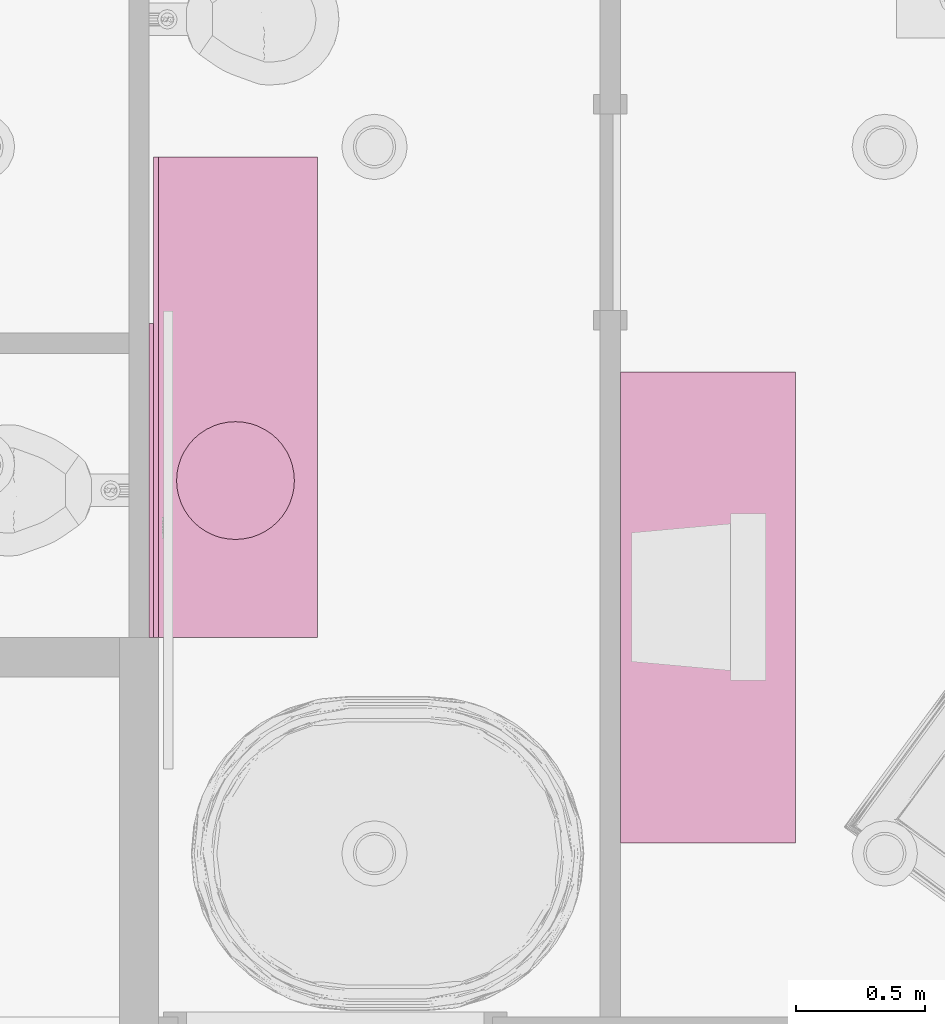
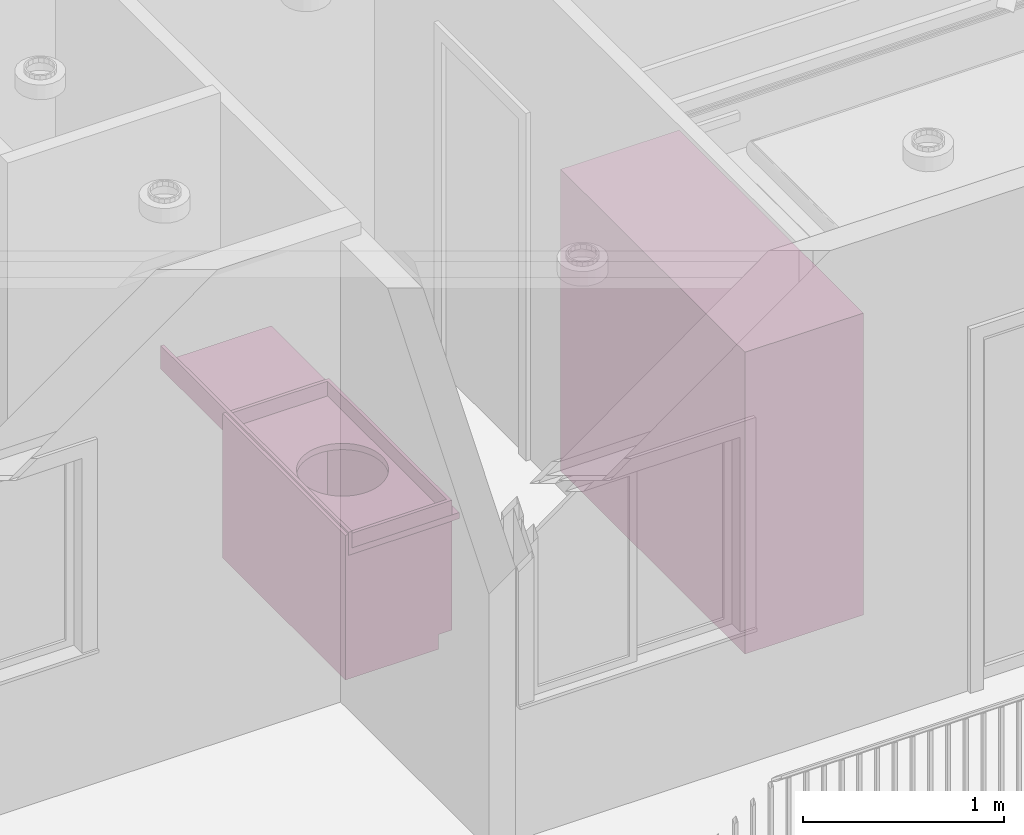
# One storey, part 22 of 28: 3 furnishings, 1 opening.
"""IFC2X3 building model written with IfcOpenShell, lengths in feet."""

from ifc_helpers import new_model, entity, si_unit, converted_unit, derived_unit, direction, frame, frame_2d, origin, place, context, subcontext, project, spatial, polyline, circle, outline, extrude, faceted_brep, source, transform, mapped, material, material_list, type_object, type_shapes, element, save


model = new_model("IFC2X3")

# Units and contexts
model_context = context("Model", 3, precision=0.0001, world=origin(), true_north=direction((6.12303176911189e-17, 1.0)))
body_context = subcontext(model_context, "Body", "Model", "MODEL_VIEW")
ifc_project = project(units=[converted_unit("LENGTHUNIT", "FOOT", entity("IfcRatioMeasure", 0.3048), si_unit("LENGTHUNIT", "METRE"), dimensions=[1, 0, 0, 0, 0, 0, 0]), converted_unit("AREAUNIT", "SQUARE FOOT", entity("IfcRatioMeasure", 0.09290304), si_unit("AREAUNIT", "SQUARE_METRE"), dimensions=[2, 0, 0, 0, 0, 0, 0]), converted_unit("VOLUMEUNIT", "CUBIC FOOT", entity("IfcRatioMeasure", 0.028316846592), si_unit("VOLUMEUNIT", "CUBIC_METRE"), dimensions=[3, 0, 0, 0, 0, 0, 0]), converted_unit("PLANEANGLEUNIT", "DEGREE", entity("IfcRatioMeasure", 0.0174532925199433), si_unit("PLANEANGLEUNIT", "RADIAN"), dimensions=[0, 0, 0, 0, 0, 0, 0]), si_unit("MASSUNIT", "GRAM", prefix="KILO"), derived_unit("MASSDENSITYUNIT", [(si_unit("MASSUNIT", "GRAM", prefix="KILO"), 1), (si_unit("LENGTHUNIT", "METRE"), -3)]), si_unit("TIMEUNIT", "SECOND"), si_unit("FREQUENCYUNIT", "HERTZ"), si_unit("THERMODYNAMICTEMPERATUREUNIT", "DEGREE_CELSIUS"), derived_unit("THERMALTRANSMITTANCEUNIT", [(si_unit("MASSUNIT", "GRAM", prefix="KILO"), 1), (si_unit("THERMODYNAMICTEMPERATUREUNIT", "KELVIN"), -1), (si_unit("TIMEUNIT", "SECOND"), -3)]), derived_unit("VOLUMETRICFLOWRATEUNIT", [(si_unit("LENGTHUNIT", "METRE"), 3), (si_unit("TIMEUNIT", "SECOND"), -1)]), si_unit("ELECTRICCURRENTUNIT", "AMPERE"), si_unit("ELECTRICVOLTAGEUNIT", "VOLT"), si_unit("POWERUNIT", "WATT"), si_unit("FORCEUNIT", "NEWTON"), si_unit("ILLUMINANCEUNIT", "LUX"), si_unit("LUMINOUSFLUXUNIT", "LUMEN"), si_unit("LUMINOUSINTENSITYUNIT", "CANDELA"), derived_unit("USERDEFINED", [(si_unit("MASSUNIT", "GRAM", prefix="KILO"), -1), (si_unit("LENGTHUNIT", "METRE"), -2), (si_unit("TIMEUNIT", "SECOND"), 3), (si_unit("LUMINOUSFLUXUNIT", "LUMEN"), 1)]), derived_unit("LINEARVELOCITYUNIT", [(si_unit("LENGTHUNIT", "METRE"), 1), (si_unit("TIMEUNIT", "SECOND"), -1)]), si_unit("PRESSUREUNIT", "PASCAL"), derived_unit("USERDEFINED", [(si_unit("LENGTHUNIT", "METRE"), -2), (si_unit("MASSUNIT", "GRAM", prefix="KILO"), 1), (si_unit("TIMEUNIT", "SECOND"), -2)])], contexts=[model_context])

# Site, building, storey
site_placement = place(None, origin())
site = spatial("IfcSite", under=ifc_project, at=site_placement, Name="表面", CompositionType="ELEMENT")
building_placement = place(site_placement, origin())
building = spatial("IfcBuilding", under=site, at=building_placement, CompositionType="ELEMENT")
storey_placement = place(building_placement, frame((0.0, 0.0, 10.0)))
storey = spatial("IfcBuildingStorey", under=building, at=storey_placement, Name="Level 2", CompositionType="ELEMENT", Elevation=9.99999999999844)

# Furnishing
ifc_material_1 = material(Name="Cabinets")
ifc_material_2 = material(Name="Cabinets - Handles")
ifc_material_list_1 = material_list([ifc_material_1, ifc_material_2])
ifc_material_list_2 = material_list([ifc_material_1, ifc_material_2])
furniture_type_1 = type_object("IfcFurnitureType", Name="48\"", material=ifc_material_list_2)
shared_shape_1 = source(origin(), body_context, "Body", "Brep", [
    faceted_brep([(1.99897540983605, -1.9375, 2.87500000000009), (1.99897540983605, -1.9375, 0.291666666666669), (-1.87602459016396, -1.9375, 0.291666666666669), (-1.87602459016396, -1.9375, 2.87500000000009), (-1.93852459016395, -2.0, 2.87500000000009), (2.06147540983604, -2.0, 2.87500000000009), (-1.93852459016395, -2.0, 0.291666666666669), (2.06147540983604, -2.0, 0.291666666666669), (-1.87602459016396, -1.75, 0.291666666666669), (-1.87602459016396, -0.062499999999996, 0.291666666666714), (-1.87602459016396, -0.062499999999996, 2.87500000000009), (-1.93852459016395, 0.0, 2.87500000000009), (-1.93852459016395, 0.0, 0.0), (-1.93852459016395, -1.75, 0.0), (-1.93852459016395, -1.75, 0.291666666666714), (1.99897540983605, -0.0624999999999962, 0.291666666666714), (1.99897540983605, -0.0624999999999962, 2.87500000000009), (2.06147540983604, 0.0, 2.87500000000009), (2.06147540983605, 0.0, 0.0), (1.99897540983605, -1.75, 0.291666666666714), (2.06147540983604, -1.75, 0.291666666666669), (2.06147540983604, -1.75, 0.0)], [[[0, 1, 2, 3]], [[0, 3, 4, 5]], [[5, 4, 6, 7]], [[2, 1, 7, 6]], [[3, 2, 8, 9, 10]], [[4, 3, 10, 11]], [[6, 4, 11, 12, 13, 14]], [[2, 6, 14, 8]], [[10, 9, 15, 16]], [[11, 10, 16, 17]], [[12, 11, 17, 18]], [[1, 0, 16, 15, 19]], [[0, 5, 17, 16]], [[5, 7, 20, 21, 18, 17]], [[7, 1, 19, 20]], [[8, 19, 15, 9]], [[18, 21, 13, 12]], [[13, 21, 20, 19, 8, 14]]]),
    faceted_brep([(0.217725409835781, -2.08333333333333, 2.29166666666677), (0.176058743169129, -2.08333333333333, 2.29166666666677), (0.176058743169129, -2.08333333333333, 1.88244716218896), (0.217725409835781, -2.08333333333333, 1.88244716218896), (0.217725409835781, -2.04166666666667, 2.29166666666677), (0.176058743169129, -2.04166666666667, 2.29166666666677), (0.176058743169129, -2.04166666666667, 1.88244716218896), (0.217725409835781, -2.04166666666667, 1.88244716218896)], [[[0, 1, 2, 3]], [[1, 0, 4, 5]], [[2, 1, 5, 6]], [[3, 2, 6, 7]], [[0, 3, 7, 4]], [[4, 7, 6, 5]]]),
    faceted_brep([(-0.053107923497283, -2.04166666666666, 2.29166666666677), (-0.053107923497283, -2.04166666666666, 1.88244716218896), (-0.0947745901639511, -2.04166666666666, 1.88244716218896), (-0.0947745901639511, -2.04166666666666, 2.29166666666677), (-0.0947745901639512, -2.08333333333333, 2.29166666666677), (-0.0531079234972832, -2.08333333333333, 2.29166666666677), (-0.0947745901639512, -2.08333333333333, 1.88244716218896), (-0.0531079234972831, -2.08333333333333, 1.88244716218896)], [[[0, 1, 2, 3]], [[4, 5, 0, 3]], [[6, 4, 3, 2]], [[7, 6, 2, 1]], [[5, 7, 1, 0]], [[5, 4, 6, 7]]]),
    faceted_brep([(1.99897540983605, -0.0624999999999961, 0.354166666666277), (-1.87602459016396, -0.062499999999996, 0.354166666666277), (-1.87602459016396, -1.9375, 0.354166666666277), (1.99897540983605, -1.9375, 0.354166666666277), (1.99897540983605, -0.062499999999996, 0.291666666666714), (1.99897540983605, -1.9375, 0.291666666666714), (-1.87602459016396, -1.9375, 0.291666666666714), (-1.87602459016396, -0.062499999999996, 0.291666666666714)], [[[0, 1, 2, 3]], [[4, 5, 6, 7]], [[1, 0, 4, 7]], [[2, 1, 7, 6]], [[3, 2, 6, 5]], [[0, 3, 5, 4]]]),
    faceted_brep([(1.99897540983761, -2.04166666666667, 2.81250000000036), (-1.87602459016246, -2.04166666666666, 2.81250000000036), (-1.87602459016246, -2.04166666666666, 2.47916666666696), (1.99897540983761, -2.04166666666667, 2.47916666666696), (1.99897540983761, -2.0, 2.81250000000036), (-1.87602459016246, -2.0, 2.81250000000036), (-1.87602459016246, -2.0, 2.47916666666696), (1.99897540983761, -2.0, 2.47916666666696)], [[[0, 1, 2, 3]], [[1, 0, 4, 5]], [[2, 1, 5, 6]], [[3, 2, 6, 7]], [[0, 3, 7, 4]], [[4, 7, 6, 5]]]),
    faceted_brep([(0.0302254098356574, -2.0, 2.41666666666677), (0.0302254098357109, -2.0, 0.354166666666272), (-1.87602459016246, -2.0, 0.354166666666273), (-1.87602459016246, -2.0, 2.41666666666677), (-1.87602459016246, -2.04166666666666, 2.41666666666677), (0.0302254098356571, -2.04166666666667, 2.41666666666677), (-1.87602459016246, -2.04166666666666, 0.354166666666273), (0.0302254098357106, -2.04166666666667, 0.354166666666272)], [[[0, 1, 2, 3]], [[4, 5, 0, 3]], [[6, 4, 3, 2]], [[7, 6, 2, 1]], [[5, 7, 1, 0]], [[5, 4, 6, 7]]]),
    faceted_brep([(0.092725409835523, -2.04166666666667, 2.41666666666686), (1.99897540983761, -2.04166666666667, 2.41666666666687), (1.99897540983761, -2.0, 2.41666666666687), (0.0927254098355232, -2.0, 2.41666666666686), (0.0927254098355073, -2.04166666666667, 0.354166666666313), (0.0927254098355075, -2.0, 0.354166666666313), (1.99897540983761, -2.04166666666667, 0.354166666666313), (1.99897540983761, -2.0, 0.354166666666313)], [[[0, 1, 2, 3]], [[4, 0, 3, 5]], [[6, 4, 5, 7]], [[1, 6, 7, 2]], [[2, 7, 5, 3]], [[1, 0, 4, 6]]]),
])
type_shapes(furniture_type_1, [shared_shape_1])
furnishing_1_placement = place(storey_placement, frame((-19.7380380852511, -6.12908171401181, 0.34374999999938), z_axis=(0.0, 0.0, 1.0), x_axis=(0.0, 1.0, 0.0)))
element("IfcFurnishingElement", 1, at=furnishing_1_placement, inside=storey, type_object=furniture_type_1, material=ifc_material_list_1, Name="Base Cabinet-Double Door Sink Unit:48\"", ObjectType="48\"", context=body_context, shape_type="MappedRepresentation", body=[
    mapped(shared_shape_1, transform((0.0, 0.0, 0.0), scale=1.0)),
])

# Furnishing, opening
ifc_material_3 = material(Name="Counter Top")
furniture_type_2 = type_object("IfcFurnitureType", Name="24\" Depth", material=ifc_material_3)
shared_shape_2 = source(origin(), body_context, "Body", "SweptSolid", [
    extrude(outline(polyline([(-0.194444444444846, -0.715277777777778), (0.26388888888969, -0.715277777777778), (0.26388888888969, -0.652777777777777), (-0.0694444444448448, -0.652777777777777), (-0.0694444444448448, 1.36805555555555), (-0.194444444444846, 1.36805555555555), (-0.194444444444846, -0.715277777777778)])), frame((-4.35519125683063, -0.715277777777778, 2.65277777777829), z_axis=(1.0, 0.0, 0.0), x_axis=(0.0, 0.0, 1.0)), (0.0, 0.0, 1.0), 6.11979166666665),
])
type_shapes(furniture_type_2, [shared_shape_2])
furnishing_2_placement = place(storey_placement, frame((-19.6807464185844, -3.71241504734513, 0.343749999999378), z_axis=(0.0, 0.0, 1.0), x_axis=(0.0, 1.0, 0.0)))
furnishing_2 = element("IfcFurnishingElement", 2, at=furnishing_2_placement, inside=storey, type_object=furniture_type_2, material=ifc_material_3, Name="Vanity Counter Top w Round Sink Hole:24\" Depth", ObjectType="24\" Depth", context=body_context, shape_type="MappedRepresentation", body=[
    mapped(shared_shape_2, transform((0.0, 0.0, 0.0), scale=1.0)),
])
opening_placement = place(storey_placement, frame((-19.6807464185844, -3.71241504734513, 10.3437499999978), z_axis=(0.0, 0.0, 1.0), x_axis=(-1.0, 0.0, 0.0)))
element("IfcOpeningElement", 3, at=opening_placement, cuts=furnishing_2, Name="Vanity Counter Top w Round Sink Hole:24\" Depth:1", ObjectType="Opening", context=body_context, shape_type="SweptSolid", body=[
    extrude(circle(Radius=0.749999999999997, at=frame_2d((0.0, 1.11022302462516e-15), x_axis=(1.0, 0.0))), frame((-1.04166666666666, 2.35519125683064, -7.54166666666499), z_axis=(0.0, 0.0, 1.0), x_axis=(0.0, -1.0, 0.0)), (0.0, 0.0, 1.0), 0.125000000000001),
])

# Furnishing
ifc_material_4 = material(Name="Metal - Chrome")
ifc_material_5 = material(Name="Glass - Clear, Grey")
ifc_material_list_3 = material_list([ifc_material_4, ifc_material_5])
ifc_material_list_4 = material_list([ifc_material_4, ifc_material_5])
furniture_type_3 = type_object("IfcFurnitureType", Name="72\" x 72\" x 24\"", material=ifc_material_list_4)
shared_shape_3 = source(origin(), body_context, "Body", "Brep", [
    faceted_brep([(6.0, 0.0, 0.0), (6.0, 0.0, 6.0), (0.0, 0.0, 6.0), (0.0, 0.0, 0.0), (1.49999999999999, 0.0, 5.83333333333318), (1.49999999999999, 0.0, 4.54166666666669), (0.166666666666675, 0.0, 4.54166666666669), (0.166666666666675, 0.0, 5.83333333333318), (1.5, 0.0, 0.25), (0.166666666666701, 0.0, 0.25), (0.166666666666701, 0.0, 1.45833333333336), (1.5, 0.0, 1.45833333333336), (5.83333333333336, 0.0, 4.54166666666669), (4.49999999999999, 0.0, 4.54166666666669), (4.49999999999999, 0.0, 5.83333333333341), (5.83333333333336, 0.0, 5.83333333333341), (1.66666666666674, 0.0, 2.41666666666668), (1.66666666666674, 0.0, 5.83333333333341), (4.33333333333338, 0.0, 5.83333333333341), (4.33333333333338, 0.0, 2.41666666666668), (4.3333333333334, 0.0, 0.250000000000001), (1.66666666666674, 0.0, 0.250000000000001), (1.66666666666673, 0.0, 1.25000000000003), (4.3333333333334, 0.0, 1.25000000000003), (5.83333333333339, 0.0, 0.250000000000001), (4.50000000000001, 0.0, 0.250000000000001), (4.50000000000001, 0.0, 1.45833333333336), (5.83333333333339, 0.0, 1.45833333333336), (0.166666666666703, 0.0, 1.54166666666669), (0.166666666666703, 0.0, 2.95833333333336), (1.49999999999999, 0.0, 2.95833333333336), (1.49999999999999, 0.0, 1.54166666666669), (1.49999999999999, 0.0, 4.45833333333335), (1.49999999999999, 0.0, 3.04166666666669), (0.166666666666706, 0.0, 3.04166666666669), (0.166666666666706, 0.0, 4.45833333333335), (4.49999999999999, 0.0, 4.45833333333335), (5.83333333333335, 0.0, 4.45833333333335), (5.83333333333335, 0.0, 3.04166666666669), (4.49999999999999, 0.0, 3.04166666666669), (4.50000000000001, 0.0, 2.95833333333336), (5.83333333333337, 0.0, 2.95833333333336), (5.83333333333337, 0.0, 1.54166666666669), (4.50000000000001, 0.0, 1.54166666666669), (4.33333333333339, 0.0, 1.33333333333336), (1.66666666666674, 0.0, 1.33333333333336), (1.66666666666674, 0.0, 2.33333333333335), (4.33333333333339, 0.0, 2.33333333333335), (6.0, 2.22916666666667, 0.0), (0.0, 2.22916666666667, 0.0), (0.0, 2.22916666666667, 6.0), (6.0, 2.22916666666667, 6.0), (1.49999999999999, 2.14583333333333, 5.83333333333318), (1.49999999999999, 2.14583333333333, 4.54166666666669), (0.166666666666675, 2.14583333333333, 4.54166666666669), (0.166666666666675, 2.14583333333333, 5.83333333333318), (1.5, 2.14583333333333, 0.25), (0.166666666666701, 2.14583333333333, 0.25), (0.166666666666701, 2.14583333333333, 1.45833333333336), (1.5, 2.14583333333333, 1.45833333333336), (5.83333333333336, 2.14583333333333, 4.54166666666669), (4.49999999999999, 2.14583333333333, 4.54166666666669), (4.49999999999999, 2.14583333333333, 5.83333333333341), (5.83333333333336, 2.14583333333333, 5.83333333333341), (1.66666666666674, 2.14583333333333, 2.41666666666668), (1.66666666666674, 2.14583333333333, 5.83333333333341), (4.33333333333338, 2.14583333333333, 5.83333333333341), (4.33333333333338, 2.14583333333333, 2.41666666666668), (4.3333333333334, 2.14583333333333, 0.250000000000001), (1.66666666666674, 2.14583333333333, 0.250000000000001), (1.66666666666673, 2.14583333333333, 1.25000000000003), (4.3333333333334, 2.14583333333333, 1.25000000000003), (5.83333333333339, 2.14583333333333, 0.250000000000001), (4.50000000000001, 2.14583333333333, 0.250000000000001), (4.50000000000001, 2.14583333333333, 1.45833333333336), (5.83333333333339, 2.14583333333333, 1.45833333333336), (0.166666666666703, 2.14583333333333, 1.54166666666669), (0.166666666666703, 2.14583333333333, 2.95833333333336), (1.49999999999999, 2.14583333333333, 2.95833333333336), (1.49999999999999, 2.14583333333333, 1.54166666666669), (1.49999999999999, 2.14583333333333, 4.45833333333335), (1.49999999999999, 2.14583333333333, 3.04166666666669), (0.166666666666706, 2.14583333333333, 3.04166666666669), (0.166666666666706, 2.14583333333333, 4.45833333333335), (4.49999999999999, 2.14583333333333, 4.45833333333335), (5.83333333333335, 2.14583333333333, 4.45833333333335), (5.83333333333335, 2.14583333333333, 3.04166666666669), (4.49999999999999, 2.14583333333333, 3.04166666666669), (4.50000000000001, 2.14583333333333, 2.95833333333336), (5.83333333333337, 2.14583333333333, 2.95833333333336), (5.83333333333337, 2.14583333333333, 1.54166666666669), (4.50000000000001, 2.14583333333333, 1.54166666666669), (4.33333333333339, 2.14583333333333, 1.33333333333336), (1.66666666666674, 2.14583333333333, 1.33333333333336), (1.66666666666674, 2.14583333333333, 2.33333333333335), (4.33333333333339, 2.14583333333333, 2.33333333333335)], [[[0, 1, 2, 3], [4, 5, 6, 7], [8, 9, 10, 11], [12, 13, 14, 15], [16, 17, 18, 19], [20, 21, 22, 23], [24, 25, 26, 27], [28, 29, 30, 31], [32, 33, 34, 35], [36, 37, 38, 39], [40, 41, 42, 43], [44, 45, 46, 47]], [[48, 49, 50, 51]], [[1, 0, 48, 51]], [[2, 1, 51, 50]], [[3, 2, 50, 49]], [[0, 3, 49, 48]], [[5, 4, 52, 53]], [[6, 5, 53, 54]], [[7, 6, 54, 55]], [[4, 7, 55, 52]], [[9, 8, 56, 57]], [[10, 9, 57, 58]], [[11, 10, 58, 59]], [[8, 11, 59, 56]], [[13, 12, 60, 61]], [[14, 13, 61, 62]], [[15, 14, 62, 63]], [[12, 15, 63, 60]], [[17, 16, 64, 65]], [[18, 17, 65, 66]], [[19, 18, 66, 67]], [[16, 19, 67, 64]], [[21, 20, 68, 69]], [[22, 21, 69, 70]], [[23, 22, 70, 71]], [[20, 23, 71, 68]], [[25, 24, 72, 73]], [[26, 25, 73, 74]], [[27, 26, 74, 75]], [[24, 27, 75, 72]], [[29, 28, 76, 77]], [[30, 29, 77, 78]], [[31, 30, 78, 79]], [[28, 31, 79, 76]], [[33, 32, 80, 81]], [[34, 33, 81, 82]], [[35, 34, 82, 83]], [[32, 35, 83, 80]], [[37, 36, 84, 85]], [[38, 37, 85, 86]], [[39, 38, 86, 87]], [[36, 39, 87, 84]], [[41, 40, 88, 89]], [[42, 41, 89, 90]], [[43, 42, 90, 91]], [[40, 43, 91, 88]], [[45, 44, 92, 93]], [[46, 45, 93, 94]], [[47, 46, 94, 95]], [[44, 47, 95, 92]], [[73, 72, 75, 74]], [[69, 68, 71, 70]], [[57, 56, 59, 58]], [[93, 92, 95, 94]], [[77, 76, 79, 78]], [[65, 64, 67, 66]], [[89, 88, 91, 90]], [[85, 84, 87, 86]], [[81, 80, 83, 82]], [[61, 60, 63, 62]], [[53, 52, 55, 54]]]),
    faceted_brep([(0.742187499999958, 0.229166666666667, 2.70833333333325), (0.721354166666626, 0.229166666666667, 2.71391560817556), (0.700520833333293, 0.229166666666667, 2.71949788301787), (0.685269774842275, 0.229166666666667, 2.73474894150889), (0.670018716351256, 0.229166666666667, 2.74999999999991), (0.663470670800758, 0.229166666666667, 2.77443763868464), (0.658854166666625, 0.229166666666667, 2.79166666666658), (0.658854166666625, 0.229166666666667, 3.20833333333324), (0.66443644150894, 0.229166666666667, 3.22916666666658), (0.670018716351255, 0.229166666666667, 3.24999999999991), (0.685269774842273, 0.229166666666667, 3.26525105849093), (0.700520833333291, 0.229166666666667, 3.28050211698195), (0.724958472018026, 0.229166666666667, 3.28705016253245), (0.742187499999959, 0.229166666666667, 3.29166666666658), (0.822916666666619, 0.229166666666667, 3.29166666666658), (0.822916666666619, 0.229166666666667, 2.70833333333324), (0.658854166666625, 0.21875, 3.20833333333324), (0.658854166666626, 0.21875, 2.79166666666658), (0.664436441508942, 0.21875, 2.77083333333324), (0.670018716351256, 0.21875, 2.74999999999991), (0.685269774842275, 0.21875, 2.73474894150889), (0.700520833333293, 0.21875, 2.71949788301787), (0.724958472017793, 0.21875, 2.71294983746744), (0.742187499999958, 0.21875, 2.70833333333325), (0.822916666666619, 0.21875, 2.70833333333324), (0.822916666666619, 0.21875, 3.29166666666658), (0.742187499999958, 0.21875, 3.29166666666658), (0.721354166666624, 0.21875, 3.28608439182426), (0.700520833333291, 0.21875, 3.28050211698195), (0.685269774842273, 0.21875, 3.26525105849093), (0.670018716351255, 0.21875, 3.24999999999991), (0.663470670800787, 0.21875, 3.22556236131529)], [[[0, 1, 2, 3, 4, 5, 6, 7, 8, 9, 10, 11, 12, 13, 14, 15]], [[16, 17, 18, 19, 20, 21, 22, 23, 24, 25, 26, 27, 28, 29, 30, 31]], [[14, 13, 26, 25]], [[15, 14, 25, 24]], [[0, 15, 24, 23]], [[1, 0, 23, 22, 21, 2]], [[3, 2, 21, 20, 19, 4]], [[5, 4, 19, 18, 17, 6]], [[7, 6, 17, 16]], [[8, 7, 16, 31, 30, 9]], [[10, 9, 30, 29, 28, 11]], [[12, 11, 28, 27, 26, 13]]]),
    faceted_brep([(0.92323279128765, 0.229166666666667, 2.70833333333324), (0.84374999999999, 0.229166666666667, 2.70833333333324), (0.84374999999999, 0.229166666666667, 3.29166666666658), (0.923232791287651, 0.229166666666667, 3.29166666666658), (0.940461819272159, 0.229166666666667, 3.28705016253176), (0.964899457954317, 0.229166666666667, 3.28050211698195), (0.980150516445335, 0.229166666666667, 3.26525105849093), (0.995401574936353, 0.229166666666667, 3.24999999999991), (1.00098384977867, 0.229166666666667, 3.22916666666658), (1.00656612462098, 0.229166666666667, 3.20833333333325), (1.00656612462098, 0.229166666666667, 2.79166666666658), (1.00194962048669, 0.229166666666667, 2.77443763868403), (0.995401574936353, 0.229166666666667, 2.74999999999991), (0.980150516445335, 0.229166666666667, 2.73474894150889), (0.964899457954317, 0.229166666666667, 2.71949788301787), (0.944066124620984, 0.229166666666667, 2.71391560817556), (0.92323279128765, 0.21875, 3.29166666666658), (0.84374999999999, 0.21875, 3.29166666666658), (0.84374999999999, 0.21875, 2.70833333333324), (0.92323279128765, 0.21875, 2.70833333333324), (0.940461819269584, 0.21875, 2.71294983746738), (0.964899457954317, 0.21875, 2.71949788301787), (0.980150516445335, 0.21875, 2.73474894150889), (0.995401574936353, 0.21875, 2.74999999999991), (1.00098384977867, 0.21875, 2.77083333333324), (1.00656612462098, 0.21875, 2.79166666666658), (1.00656612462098, 0.21875, 3.20833333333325), (1.00194962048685, 0.21875, 3.22556236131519), (0.995401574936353, 0.21875, 3.24999999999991), (0.980150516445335, 0.21875, 3.26525105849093), (0.964899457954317, 0.21875, 3.28050211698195), (0.944066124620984, 0.21875, 3.28608439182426)], [[[0, 1, 2, 3, 4, 5, 6, 7, 8, 9, 10, 11, 12, 13, 14, 15]], [[16, 17, 18, 19, 20, 21, 22, 23, 24, 25, 26, 27, 28, 29, 30, 31]], [[5, 4, 3, 16, 31, 30]], [[7, 6, 5, 30, 29, 28]], [[28, 27, 26, 9, 8, 7]], [[10, 9, 26, 25]], [[12, 11, 10, 25, 24, 23]], [[14, 13, 12, 23, 22, 21]], [[21, 20, 19, 0, 15, 14]], [[1, 0, 19, 18]], [[2, 1, 18, 17]], [[3, 2, 17, 16]]]),
    faceted_brep([(4.99805037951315, 0.229166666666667, 2.7744376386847), (4.99343387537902, 0.229166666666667, 2.79166666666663), (4.99343387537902, 0.229166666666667, 3.20833333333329), (4.99901615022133, 0.229166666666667, 3.22916666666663), (5.00459842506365, 0.229166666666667, 3.24999999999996), (5.01984948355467, 0.229166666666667, 3.26525105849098), (5.03510054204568, 0.229166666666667, 3.280502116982), (5.05953818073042, 0.229166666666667, 3.2870501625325), (5.07676720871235, 0.229166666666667, 3.29166666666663), (5.15625000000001, 0.229166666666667, 3.29166666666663), (5.15625000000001, 0.229166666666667, 2.7083333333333), (5.07676720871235, 0.229166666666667, 2.70833333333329), (5.05593387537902, 0.229166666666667, 2.71391560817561), (5.03510054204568, 0.229166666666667, 2.71949788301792), (5.01984948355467, 0.229166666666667, 2.73474894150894), (5.00459842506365, 0.229166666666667, 2.74999999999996), (4.99343387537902, 0.21875, 3.2083333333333), (4.99343387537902, 0.21875, 2.79166666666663), (4.99901615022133, 0.21875, 2.77083333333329), (5.00459842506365, 0.21875, 2.74999999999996), (5.01984948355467, 0.21875, 2.73474894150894), (5.03510054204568, 0.21875, 2.71949788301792), (5.05953818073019, 0.21875, 2.71294983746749), (5.07676720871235, 0.21875, 2.70833333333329), (5.15625000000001, 0.21875, 2.7083333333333), (5.15625000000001, 0.21875, 3.29166666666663), (5.07676720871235, 0.21875, 3.29166666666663), (5.05593387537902, 0.21875, 3.28608439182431), (5.03510054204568, 0.21875, 3.280502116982), (5.01984948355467, 0.21875, 3.26525105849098), (5.00459842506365, 0.21875, 3.24999999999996), (4.99805037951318, 0.21875, 3.22556236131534)], [[[0, 1, 2, 3, 4, 5, 6, 7, 8, 9, 10, 11, 12, 13, 14, 15]], [[16, 17, 18, 19, 20, 21, 22, 23, 24, 25, 26, 27, 28, 29, 30, 31]], [[9, 8, 26, 25]], [[10, 9, 25, 24]], [[11, 10, 24, 23]], [[12, 11, 23, 22, 21, 13]], [[14, 13, 21, 20, 19, 15]], [[0, 15, 19, 18, 17, 1]], [[2, 1, 17, 16]], [[3, 2, 16, 31, 30, 4]], [[5, 4, 30, 29, 28, 6]], [[7, 6, 28, 27, 26, 8]]]),
    faceted_brep([(5.25781249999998, 0.229166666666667, 2.7083333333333), (5.17708333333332, 0.229166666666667, 2.7083333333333), (5.17708333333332, 0.229166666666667, 3.29166666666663), (5.25781249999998, 0.229166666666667, 3.29166666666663), (5.27864583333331, 0.229166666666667, 3.28608439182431), (5.29947916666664, 0.229166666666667, 3.280502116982), (5.31473022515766, 0.229166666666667, 3.26525105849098), (5.32998128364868, 0.229166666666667, 3.24999999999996), (5.33652932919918, 0.229166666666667, 3.22556236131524), (5.34114583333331, 0.229166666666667, 3.2083333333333), (5.34114583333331, 0.229166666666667, 2.79166666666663), (5.335563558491, 0.229166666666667, 2.7708333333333), (5.32998128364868, 0.229166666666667, 2.74999999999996), (5.31473022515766, 0.229166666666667, 2.73474894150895), (5.29947916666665, 0.229166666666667, 2.71949788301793), (5.27504152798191, 0.229166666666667, 2.71294983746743), (5.25781249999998, 0.21875, 3.29166666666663), (5.17708333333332, 0.21875, 3.29166666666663), (5.17708333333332, 0.21875, 2.7083333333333), (5.25781249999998, 0.21875, 2.7083333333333), (5.27864583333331, 0.21875, 2.71391560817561), (5.29947916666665, 0.21875, 2.71949788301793), (5.31473022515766, 0.21875, 2.73474894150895), (5.32998128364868, 0.21875, 2.74999999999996), (5.33652932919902, 0.21875, 2.77443763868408), (5.34114583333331, 0.21875, 2.79166666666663), (5.34114583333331, 0.21875, 3.2083333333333), (5.335563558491, 0.21875, 3.22916666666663), (5.32998128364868, 0.21875, 3.24999999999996), (5.31473022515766, 0.21875, 3.26525105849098), (5.29947916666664, 0.21875, 3.280502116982), (5.27504152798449, 0.21875, 3.28705016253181)], [[[0, 1, 2, 3, 4, 5, 6, 7, 8, 9, 10, 11, 12, 13, 14, 15]], [[16, 17, 18, 19, 20, 21, 22, 23, 24, 25, 26, 27, 28, 29, 30, 31]], [[4, 3, 16, 31, 30, 5]], [[6, 5, 30, 29, 28, 7]], [[8, 7, 28, 27, 26, 9]], [[10, 9, 26, 25]], [[11, 10, 25, 24, 23, 12]], [[13, 12, 23, 22, 21, 14]], [[15, 14, 21, 20, 19, 0]], [[1, 0, 19, 18]], [[2, 1, 18, 17]], [[3, 2, 17, 16]]]),
    faceted_brep([(5.17708333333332, 0.229166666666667, 5.89583333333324), (5.89583333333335, 0.229166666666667, 5.89583333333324), (5.89583333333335, 0.229166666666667, 0.166666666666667), (5.17708333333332, 0.229166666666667, 0.166666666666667), (5.17708333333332, 0.0, 5.89583333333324), (5.89583333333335, 0.0, 5.89583333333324), (5.89583333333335, 0.0, 0.166666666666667), (5.17708333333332, 0.0, 0.166666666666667)], [[[0, 1, 2, 3]], [[1, 0, 4, 5]], [[2, 1, 5, 6]], [[3, 2, 6, 7]], [[0, 3, 7, 4]], [[4, 7, 6, 5]]]),
    faceted_brep([(5.15625000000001, 0.0, 0.166666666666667), (5.15625000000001, 0.0, 5.89583333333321), (4.43750000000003, 0.0, 5.89583333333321), (4.43750000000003, 0.0, 0.166666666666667), (4.43750000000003, 0.229166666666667, 0.166666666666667), (5.15625000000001, 0.229166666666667, 0.166666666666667), (4.43750000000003, 0.229166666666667, 5.89583333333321), (5.15625000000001, 0.229166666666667, 5.89583333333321)], [[[0, 1, 2, 3]], [[4, 5, 0, 3]], [[6, 4, 3, 2]], [[7, 6, 2, 1]], [[5, 7, 1, 0]], [[5, 4, 6, 7]]]),
    faceted_brep([(0.822916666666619, 0.229166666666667, 0.166666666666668), (0.822916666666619, 0.229166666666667, 5.89583333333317), (0.822916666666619, 0.0, 5.89583333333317), (0.822916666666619, 0.0, 0.166666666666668), (0.104166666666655, 0.229166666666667, 0.166666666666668), (0.104166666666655, 0.0, 0.166666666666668), (0.104166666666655, 0.229166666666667, 5.89583333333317), (0.104166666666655, 0.0, 5.89583333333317)], [[[0, 1, 2, 3]], [[4, 0, 3, 5]], [[6, 4, 5, 7]], [[1, 6, 7, 2]], [[2, 7, 5, 3]], [[1, 0, 4, 6]]]),
    faceted_brep([(0.84374999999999, 0.229166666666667, 5.89583333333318), (0.84374999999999, 0.229166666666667, 0.166666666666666), (0.84374999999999, 0.0, 0.166666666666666), (0.84374999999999, 0.0, 5.89583333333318), (1.56249999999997, 0.229166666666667, 5.89583333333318), (1.56249999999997, 0.0, 5.89583333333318), (1.56249999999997, 0.229166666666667, 0.166666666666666), (1.56249999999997, 0.0, 0.166666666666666)], [[[0, 1, 2, 3]], [[4, 0, 3, 5]], [[6, 4, 5, 7]], [[1, 6, 7, 2]], [[2, 7, 5, 3]], [[1, 0, 4, 6]]]),
])
type_shapes(furniture_type_3, [shared_shape_3])
furnishing_3_placement = place(storey_placement, frame((-11.5088714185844, -10.6821896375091, 0.343749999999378), z_axis=(0.0, 0.0, 1.0), x_axis=(0.0, 1.0, 0.0)))
element("IfcFurnishingElement", 4, at=furnishing_3_placement, inside=storey, type_object=furniture_type_3, material=ifc_material_list_3, Name="Entertainment Center:72\" x 72\" x 24\"", ObjectType="72\" x 72\" x 24\"", context=body_context, shape_type="MappedRepresentation", body=[
    mapped(shared_shape_3, transform((0.0, 0.0, 0.0), scale=1.0)),
])

save(model, "model.ifc")
